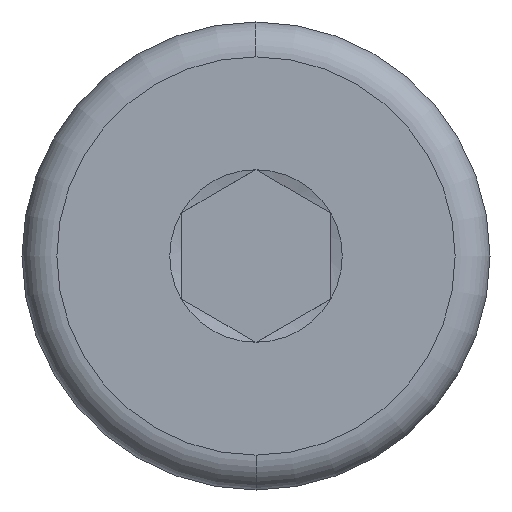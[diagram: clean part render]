
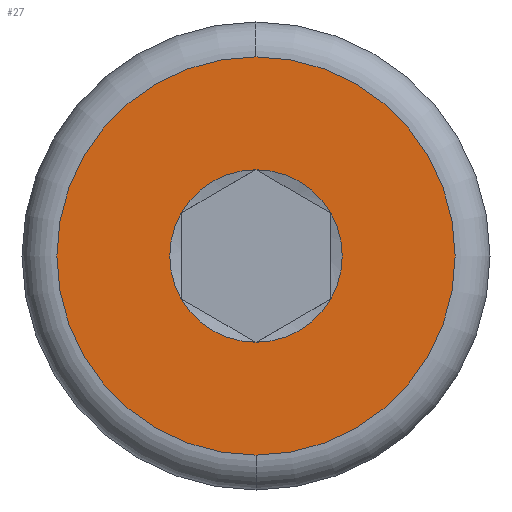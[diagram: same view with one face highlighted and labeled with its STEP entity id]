
A CAD part, left-side view. The second image highlights one B-rep face of the part: STEP entity #27.
In plain terms, the highlighted planar face has unit normal (-1, 0, 0).
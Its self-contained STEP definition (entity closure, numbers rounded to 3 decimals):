
#12 = ORIENTED_EDGE ( 'NONE', *, *, #527, .T. ) ;
#13 = CIRCLE ( 'NONE', #512, 1.732 ) ;
#18 = CARTESIAN_POINT ( 'NONE',  ( 0., 0., 0. ) ) ;
#20 = DIRECTION ( 'NONE',  ( 1., 0., 0. ) ) ;
#24 = AXIS2_PLACEMENT_3D ( 'NONE', #525, #264, #538 ) ;
#27 = ADVANCED_FACE ( 'NONE', ( #275, #434 ), #529, .T. ) ;
#45 = ORIENTED_EDGE ( 'NONE', *, *, #84, .T. ) ;
#51 = DIRECTION ( 'NONE',  ( 1., 0., 0. ) ) ;
#57 = CIRCLE ( 'NONE', #555, 1.732 ) ;
#69 = AXIS2_PLACEMENT_3D ( 'NONE', #304, #51, #675 ) ;
#73 = DIRECTION ( 'NONE',  ( 1., 0., 0. ) ) ;
#84 = EDGE_CURVE ( 'NONE', #306, #207, #13, .T. ) ;
#91 = AXIS2_PLACEMENT_3D ( 'NONE', #484, #73, #113 ) ;
#95 = EDGE_CURVE ( 'NONE', #632, #306, #57, .T. ) ;
#113 = DIRECTION ( 'NONE',  ( 0., 0., -1. ) ) ;
#114 = DIRECTION ( 'NONE',  ( 0., 0., 1. ) ) ;
#119 = DIRECTION ( 'NONE',  ( 1., 0., 0. ) ) ;
#162 = DIRECTION ( 'NONE',  ( 0., 0., -1. ) ) ;
#163 = EDGE_LOOP ( 'NONE', ( #549, #326 ) ) ;
#165 = DIRECTION ( 'NONE',  ( 0., 0., -1. ) ) ;
#194 = CARTESIAN_POINT ( 'NONE',  ( 0., 0., -4. ) ) ;
#198 = VERTEX_POINT ( 'NONE', #665 ) ;
#207 = VERTEX_POINT ( 'NONE', #661 ) ;
#214 = CARTESIAN_POINT ( 'NONE',  ( 0., 0., 4. ) ) ;
#217 = DIRECTION ( 'NONE',  ( 0., 0., -1. ) ) ;
#218 = DIRECTION ( 'NONE',  ( -1., 0., 0. ) ) ;
#223 = EDGE_CURVE ( 'NONE', #608, #198, #345, .T. ) ;
#226 = VERTEX_POINT ( 'NONE', #560 ) ;
#261 = CARTESIAN_POINT ( 'NONE',  ( 0., -1.5, -0.866 ) ) ;
#264 = DIRECTION ( 'NONE',  ( 1., 0., 0. ) ) ;
#273 = ORIENTED_EDGE ( 'NONE', *, *, #597, .T. ) ;
#275 = FACE_BOUND ( 'NONE', #448, .T. ) ;
#294 = CARTESIAN_POINT ( 'NONE',  ( 0., 1.5, 0.866 ) ) ;
#304 = CARTESIAN_POINT ( 'NONE',  ( 0., 0., 0. ) ) ;
#306 = VERTEX_POINT ( 'NONE', #294 ) ;
#315 = CIRCLE ( 'NONE', #24, 1.732 ) ;
#317 = CARTESIAN_POINT ( 'NONE',  ( 0., 0., 0. ) ) ;
#325 = CIRCLE ( 'NONE', #69, 1.732 ) ;
#326 = ORIENTED_EDGE ( 'NONE', *, *, #524, .F. ) ;
#345 = CIRCLE ( 'NONE', #481, 1.732 ) ;
#346 = AXIS2_PLACEMENT_3D ( 'NONE', #18, #20, #217 ) ;
#370 = EDGE_CURVE ( 'NONE', #198, #632, #325, .T. ) ;
#373 = CARTESIAN_POINT ( 'NONE',  ( 0., 0., 0. ) ) ;
#377 = DIRECTION ( 'NONE',  ( 1., 0., 0. ) ) ;
#390 = CIRCLE ( 'NONE', #91, 4. ) ;
#392 = CARTESIAN_POINT ( 'NONE',  ( 0., 0., 0. ) ) ;
#424 = DIRECTION ( 'NONE',  ( 0., 0., -1. ) ) ;
#429 = DIRECTION ( 'NONE',  ( 1., 0., 0. ) ) ;
#434 = FACE_OUTER_BOUND ( 'NONE', #163, .T. ) ;
#444 = VERTEX_POINT ( 'NONE', #194 ) ;
#448 = EDGE_LOOP ( 'NONE', ( #45, #273, #12, #603, #638, #535 ) ) ;
#457 = CIRCLE ( 'NONE', #346, 4. ) ;
#481 = AXIS2_PLACEMENT_3D ( 'NONE', #392, #494, #651 ) ;
#484 = CARTESIAN_POINT ( 'NONE',  ( 0., 0., 0. ) ) ;
#494 = DIRECTION ( 'NONE',  ( 1., 0., 0. ) ) ;
#506 = VERTEX_POINT ( 'NONE', #214 ) ;
#512 = AXIS2_PLACEMENT_3D ( 'NONE', #640, #377, #165 ) ;
#524 = EDGE_CURVE ( 'NONE', #506, #444, #390, .T. ) ;
#525 = CARTESIAN_POINT ( 'NONE',  ( 0., 0., 0. ) ) ;
#527 = EDGE_CURVE ( 'NONE', #226, #608, #533, .T. ) ;
#529 = PLANE ( 'NONE',  #541 ) ;
#533 = CIRCLE ( 'NONE', #613, 1.732 ) ;
#535 = ORIENTED_EDGE ( 'NONE', *, *, #95, .T. ) ;
#538 = DIRECTION ( 'NONE',  ( 0., 0., -1. ) ) ;
#541 = AXIS2_PLACEMENT_3D ( 'NONE', #584, #218, #114 ) ;
#549 = ORIENTED_EDGE ( 'NONE', *, *, #561, .F. ) ;
#555 = AXIS2_PLACEMENT_3D ( 'NONE', #373, #119, #162 ) ;
#560 = CARTESIAN_POINT ( 'NONE',  ( 0., -1.5, 0.866 ) ) ;
#561 = EDGE_CURVE ( 'NONE', #444, #506, #457, .T. ) ;
#584 = CARTESIAN_POINT ( 'NONE',  ( 0., 0., 0. ) ) ;
#597 = EDGE_CURVE ( 'NONE', #207, #226, #315, .T. ) ;
#603 = ORIENTED_EDGE ( 'NONE', *, *, #223, .T. ) ;
#608 = VERTEX_POINT ( 'NONE', #261 ) ;
#613 = AXIS2_PLACEMENT_3D ( 'NONE', #317, #429, #424 ) ;
#632 = VERTEX_POINT ( 'NONE', #664 ) ;
#638 = ORIENTED_EDGE ( 'NONE', *, *, #370, .T. ) ;
#640 = CARTESIAN_POINT ( 'NONE',  ( 0., 0., 0. ) ) ;
#651 = DIRECTION ( 'NONE',  ( 0., 0., -1. ) ) ;
#661 = CARTESIAN_POINT ( 'NONE',  ( 0., 0., 1.732 ) ) ;
#664 = CARTESIAN_POINT ( 'NONE',  ( 0., 1.5, -0.866 ) ) ;
#665 = CARTESIAN_POINT ( 'NONE',  ( 0., 0., -1.732 ) ) ;
#675 = DIRECTION ( 'NONE',  ( 0., 0., -1. ) ) ;
